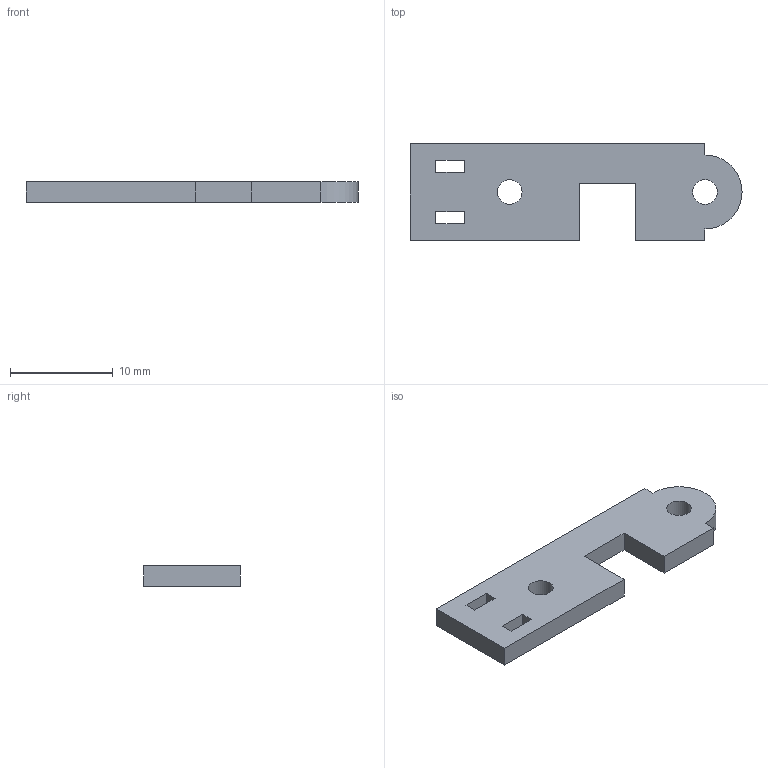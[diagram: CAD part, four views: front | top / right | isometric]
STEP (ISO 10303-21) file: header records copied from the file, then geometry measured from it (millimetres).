
FILE_DESCRIPTION(('Open CASCADE Model'),'2;1');
FILE_NAME('Open CASCADE Shape Model','2026-09-21T11:06:40',('Author'),( 'Open CASCADE'),'Open CASCADE STEP processor 7.7','Open CASCADE 7.7' ,'Unknown');
FILE_SCHEMA(('AUTOMOTIVE_DESIGN { 1 0 10303 214 1 1 1 1 }'));
Length unit declared in the file: millimetre
Products named in the file (1): Open CASCADE STEP translator 7.7 3
Bounding box: 32.3 x 9.4 x 2 mm (x, y, z)
Volume: 488.2 mm3; surface area: 733 mm2
Topology: 1 solids, 1 shells, 22 faces, 60 edges, 40 vertices
Faces by surface type: plane 19, cylinder 3
Full cylindrical faces by diameter (mm): 2.4 x2
Entity records: 1453 total; most frequent: CARTESIAN_POINT 313, DIRECTION 177, ORIENTED_EDGE 120, PCURVE 120, DEFINITIONAL_REPRESENTATION 120, LINE 116, VECTOR 116, EDGE_CURVE 60
